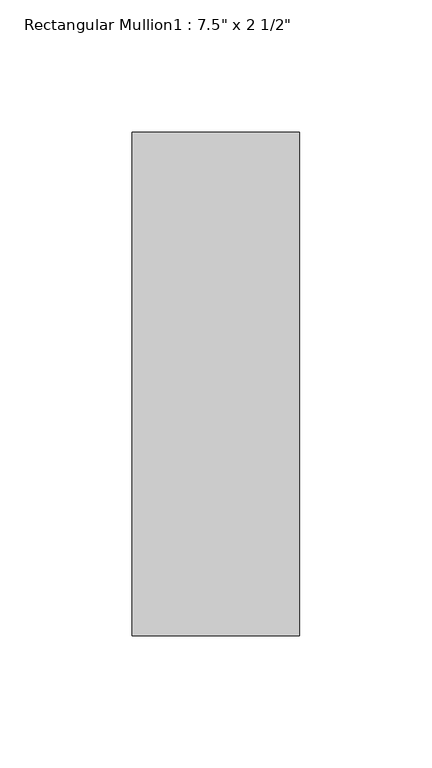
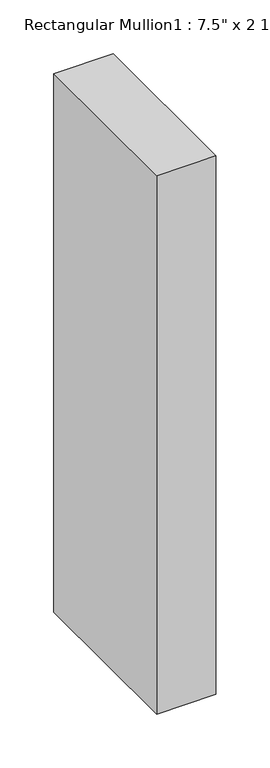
"""IFC4 building model written with IfcOpenShell, lengths in millimetres: member geometry."""

from ifc_helpers import new_model, si_unit, frame, origin, place, context, project, spatial, polyline, outline, extrude, source, transform, mapped, element, save


def member_5a3b7dd0(model_context):
    return source(origin(), model_context, "Body", "SweptSolid", [
        extrude(outline(polyline([(0.0, 165.1), (0.0, -25.4), (-63.5, -25.4), (-63.5, 165.1), (0.0, 165.1)])), frame((0.0, 0.0, -609.6), z_axis=(0.0, 0.0, 1.0), x_axis=(1.0, 0.0, 0.0)), (0.0, 0.0, 1.0), 609.6),
    ])


if __name__ == "__main__":
    model = new_model("IFC4")
    model_context = context("Model", 3, world=origin())
    ifc_project = project(units=[si_unit("LENGTHUNIT", "METRE", prefix="MILLI")], contexts=[model_context])
    site = spatial("IfcSite", under=ifc_project)
    building = spatial("IfcBuilding", under=site)
    placement = place(None, origin())
    member_shape = member_5a3b7dd0(model_context)
    element("IfcMember", 1, ObjectType="Rectangular Mullion1 : 7.5\" x 2 1/2\"", at=placement, inside=building, context=model_context, shape_type="MappedRepresentation", body=[
        mapped(member_shape, transform((0.0, 0.0, 0.0), x_axis=(1.0, 0.0, 0.0), y_axis=(0.0, 1.0, 0.0), z_axis=(0.0, 0.0, 1.0))),
    ])
    save(model, "model.ifc")
